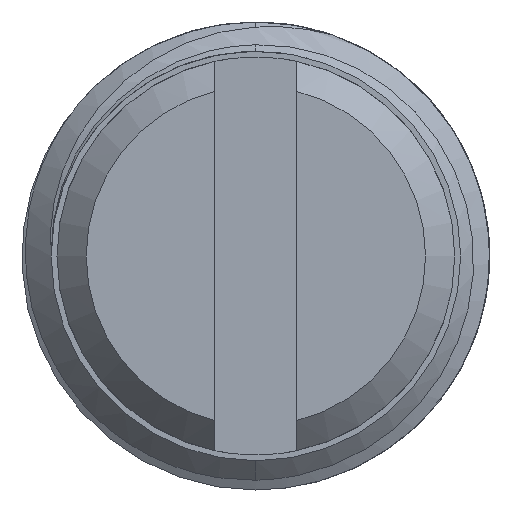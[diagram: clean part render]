
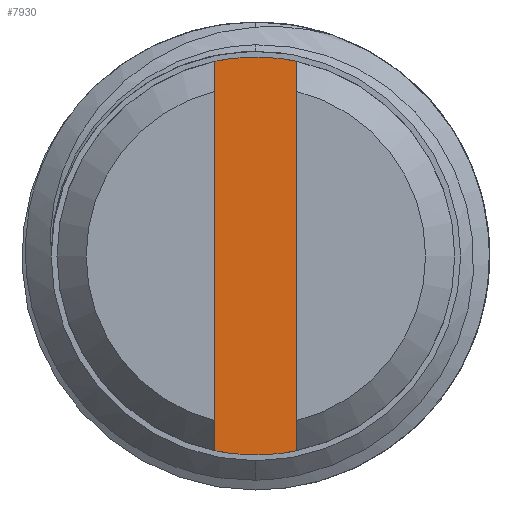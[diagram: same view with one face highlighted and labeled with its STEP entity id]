
A CAD part, left-side view. The second image highlights one B-rep face of the part: STEP entity #7930.
In plain terms, the highlighted planar face has unit normal (-1, 0, 0).
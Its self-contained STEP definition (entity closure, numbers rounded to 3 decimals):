
#162 = CARTESIAN_POINT ( 'NONE',  ( 1., 0., 0. ) ) ;
#275 = CARTESIAN_POINT ( 'NONE',  ( 1., -0.7, 3.327 ) ) ;
#413 = AXIS2_PLACEMENT_3D ( 'NONE', #162, #4765, #800 ) ;
#497 = DIRECTION ( 'NONE',  ( 0., 0., 1. ) ) ;
#698 = ORIENTED_EDGE ( 'NONE', *, *, #8461, .F. ) ;
#800 = DIRECTION ( 'NONE',  ( 0., 0., -1. ) ) ;
#820 = CARTESIAN_POINT ( 'NONE',  ( 1., 0., 3.4 ) ) ;
#958 = CARTESIAN_POINT ( 'NONE',  ( 1., -0.7, -4. ) ) ;
#971 = EDGE_CURVE ( 'NONE', #7359, #4652, #2361, .T. ) ;
#1140 = CARTESIAN_POINT ( 'NONE',  ( 1., 0.7, -3.327 ) ) ;
#1248 = LINE ( 'NONE', #1857, #3000 ) ;
#1358 = VERTEX_POINT ( 'NONE', #1140 ) ;
#1486 = VERTEX_POINT ( 'NONE', #275 ) ;
#1857 = CARTESIAN_POINT ( 'NONE',  ( 1., -0.7, -4. ) ) ;
#2043 = CARTESIAN_POINT ( 'NONE',  ( 1., 0., 0. ) ) ;
#2286 = DIRECTION ( 'NONE',  ( 0., 0., -1. ) ) ;
#2294 = CIRCLE ( 'NONE', #5871, 3.4 ) ;
#2361 = CIRCLE ( 'NONE', #4156, 3.4 ) ;
#2578 = CIRCLE ( 'NONE', #4993, 3.4 ) ;
#2692 = DIRECTION ( 'NONE',  ( 0., 0., -1. ) ) ;
#2765 = VERTEX_POINT ( 'NONE', #5429 ) ;
#3000 = VECTOR ( 'NONE', #5793, 1000. ) ;
#3405 = AXIS2_PLACEMENT_3D ( 'NONE', #958, #6232, #2286 ) ;
#3443 = DIRECTION ( 'NONE',  ( 1., 0., 0. ) ) ;
#3799 = ORIENTED_EDGE ( 'NONE', *, *, #5876, .F. ) ;
#4018 = ORIENTED_EDGE ( 'NONE', *, *, #971, .F. ) ;
#4156 = AXIS2_PLACEMENT_3D ( 'NONE', #6667, #7032, #7141 ) ;
#4457 = CARTESIAN_POINT ( 'NONE',  ( 1., 0.7, -4. ) ) ;
#4652 = VERTEX_POINT ( 'NONE', #5301 ) ;
#4765 = DIRECTION ( 'NONE',  ( 1., 0., 0. ) ) ;
#4993 = AXIS2_PLACEMENT_3D ( 'NONE', #2043, #6625, #2692 ) ;
#5066 = EDGE_LOOP ( 'NONE', ( #7818, #3799, #4018, #8031, #698, #6351 ) ) ;
#5301 = CARTESIAN_POINT ( 'NONE',  ( 1., 0., -3.4 ) ) ;
#5429 = CARTESIAN_POINT ( 'NONE',  ( 1., 0.7, 3.327 ) ) ;
#5556 = PLANE ( 'NONE',  #3405 ) ;
#5619 = CARTESIAN_POINT ( 'NONE',  ( 1., -0.7, -3.327 ) ) ;
#5686 = LINE ( 'NONE', #4457, #7033 ) ;
#5735 = EDGE_CURVE ( 'NONE', #7359, #1486, #1248, .T. ) ;
#5793 = DIRECTION ( 'NONE',  ( 0., 0., 1. ) ) ;
#5871 = AXIS2_PLACEMENT_3D ( 'NONE', #7389, #3443, #8058 ) ;
#5876 = EDGE_CURVE ( 'NONE', #4652, #1358, #2578, .T. ) ;
#5880 = CIRCLE ( 'NONE', #413, 3.4 ) ;
#5977 = EDGE_CURVE ( 'NONE', #2765, #6690, #5880, .T. ) ;
#6232 = DIRECTION ( 'NONE',  ( 1., 0., 0. ) ) ;
#6351 = ORIENTED_EDGE ( 'NONE', *, *, #5977, .F. ) ;
#6625 = DIRECTION ( 'NONE',  ( 1., 0., 0. ) ) ;
#6667 = CARTESIAN_POINT ( 'NONE',  ( 1., 0., 0. ) ) ;
#6690 = VERTEX_POINT ( 'NONE', #820 ) ;
#7032 = DIRECTION ( 'NONE',  ( 1., 0., 0. ) ) ;
#7033 = VECTOR ( 'NONE', #497, 1000. ) ;
#7141 = DIRECTION ( 'NONE',  ( 0., 0., -1. ) ) ;
#7359 = VERTEX_POINT ( 'NONE', #5619 ) ;
#7389 = CARTESIAN_POINT ( 'NONE',  ( 1., 0., 0. ) ) ;
#7674 = FACE_OUTER_BOUND ( 'NONE', #5066, .T. ) ;
#7818 = ORIENTED_EDGE ( 'NONE', *, *, #8202, .F. ) ;
#7930 = ADVANCED_FACE ( 'NONE', ( #7674 ), #5556, .F. ) ;
#8031 = ORIENTED_EDGE ( 'NONE', *, *, #5735, .T. ) ;
#8058 = DIRECTION ( 'NONE',  ( 0., 0., -1. ) ) ;
#8202 = EDGE_CURVE ( 'NONE', #1358, #2765, #5686, .T. ) ;
#8461 = EDGE_CURVE ( 'NONE', #6690, #1486, #2294, .T. ) ;
